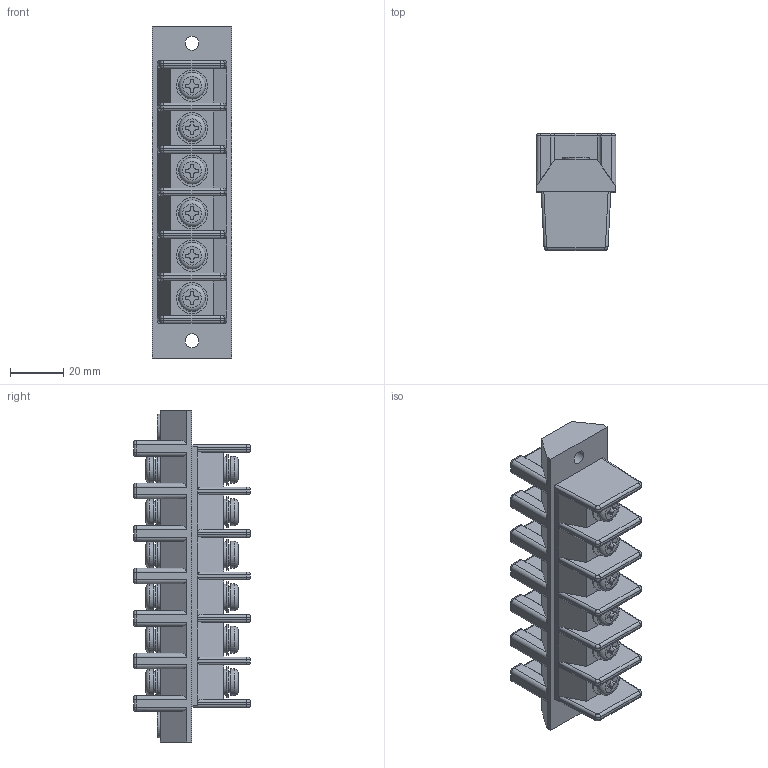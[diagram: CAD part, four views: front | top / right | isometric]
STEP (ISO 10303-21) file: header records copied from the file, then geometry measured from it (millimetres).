
FILE_DESCRIPTION(/* description */ ('Alibre Inc.'),/* implementation_level */ '2;1');
FILE_NAME(/* name */ 'export-F4E9971F-D1F3-43BC-A896-519FE49697D2',/* time_stamp */ '2025-02-21T11:59:45+09:00',/* author */ (''),/* organization */ (''),/* preprocessor_version */ 'ST-DEVELOPER v17',/* originating_system */ 'Alibre',/* authorisation */ '');
FILE_SCHEMA (('CONFIG_CONTROL_DESIGN'));
Length unit declared in the file: millimetre
Bounding box: 30 x 44 x 125 mm (x, y, z)
Volume: 82716.8 mm3; surface area: 28389.9 mm2
Topology: 1 solids, 19 shells, 805 faces, 1858 edges, 1154 vertices
Faces by surface type: plane 375, cylinder 310, torus 96, cone 24
Full cylindrical faces by diameter (mm): 4.4 x12, 4.6 x12, 5 x18, 5.2 x2, 8 x12, 9.9 x14, 10 x12, 11.7 x12
Entity records: 21306 total; most frequent: CARTESIAN_POINT 3895, ORIENTED_EDGE 3428, DIRECTION 3389, EDGE_CURVE 1714, AXIS2_PLACEMENT_3D 1439, VERTEX_POINT 1140, EDGE_LOOP 1026, FACE_BOUND 1026
